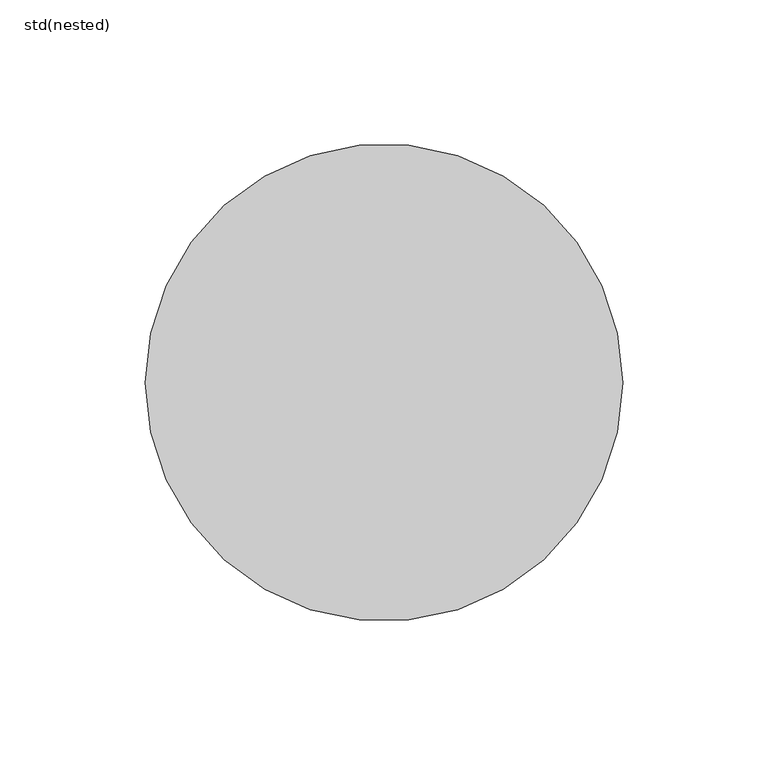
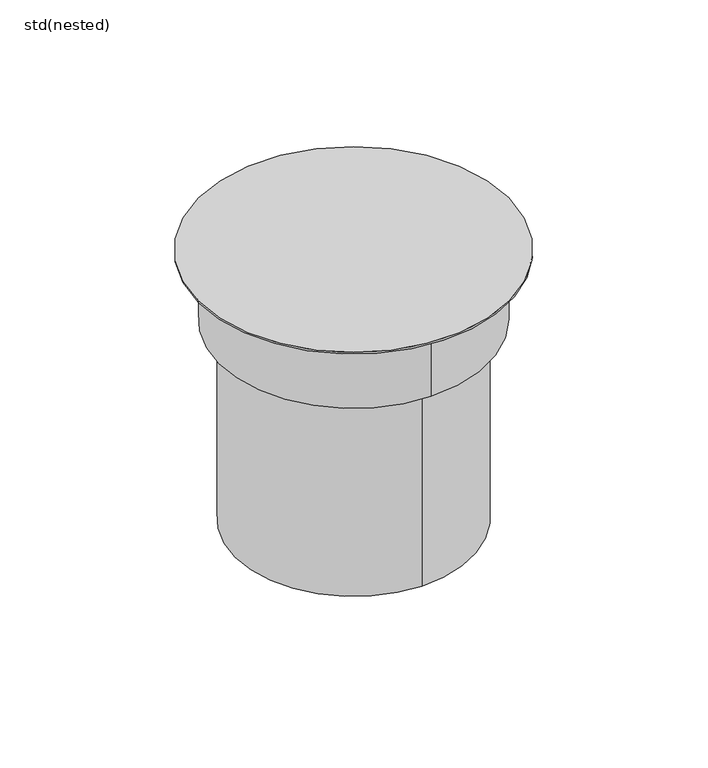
"""IFC4 building model written with IfcOpenShell, lengths in millimetres: sanitary terminal geometry, ZZZ_do not use_PF_ST_WPB upper part_CR 142_ACO : std(nested)."""

from ifc_helpers import new_model, si_unit, point, frame, origin, origin_with_axes, origin_2d, place, context, project, spatial, circle_curve, trimmed, segment, composite_curve, outline, extrude, source, transform, mapped, element, save
from ifc_brep_helpers import plane_surface, cylinder_surface, advanced_brep


def std_nested_f98b17df(model_context):
    return source(origin(), model_context, "Body", "SolidModel", [
        extrude(outline(composite_curve([segment(trimmed(circle_curve(origin_2d(), 62.5), [point((0.0, -62.5))], [point((0.0, 62.5))], False, "CARTESIAN"), True, "CONTINUOUS"), segment(trimmed(circle_curve(origin_2d(), 62.5), [point((0.0, 62.5))], [point((0.0, -62.5))], False, "CARTESIAN"), True, "CONTINUOUS")], self_intersect=False)), frame((0.0, 0.0, -150.0), z_axis=(0.0, 0.0, 1.0), x_axis=(1.0, 0.0, 0.0)), (0.0, 0.0, 1.0), 111.0),
        advanced_brep(
        [(0.0, -71.0, -39.0), (0.0, 71.0, -39.0), (-82.0, 0.0, 0.0), (82.0, 0.0, 0.0), (0.0, -71.0, -1.0), (0.0, 71.0, -1.0), (-82.0, 0.0, -1.0), (82.0, 0.0, -1.0)],
        [
            (0, 1, circle_curve(frame((0.0, 0.0, -39.0), z_axis=(0.0, 0.0, -1.0), x_axis=(0.0, 1.0, 0.0)), 71.0)),
            (1, 0, circle_curve(frame((0.0, 0.0, -39.0), z_axis=(0.0, 0.0, -1.0), x_axis=(0.0, 1.0, 0.0)), 71.0)),
            (2, 3, circle_curve(origin_with_axes(), 82.0)),
            (3, 2, circle_curve(origin_with_axes(), 82.0)),
            (0, 4),
            (4, 5, circle_curve(frame((0.0, 0.0, -1.0), z_axis=(0.0, 0.0, -1.0), x_axis=(0.0, 1.0, 0.0)), 71.0)),
            (5, 1),
            (5, 4, circle_curve(frame((0.0, 0.0, -1.0), z_axis=(0.0, 0.0, -1.0), x_axis=(0.0, 1.0, 0.0)), 71.0)),
            (6, 7, circle_curve(frame((0.0, 0.0, -1.0), z_axis=(0.0, 0.0, -1.0), x_axis=(1.0, 0.0, 0.0)), 82.0)),
            (7, 6, circle_curve(frame((0.0, 0.0, -1.0), z_axis=(0.0, 0.0, -1.0), x_axis=(1.0, 0.0, 0.0)), 82.0)),
            (7, 3),
            (2, 6),
        ],
        [
            plane_surface(frame((0.0, 71.0, -39.0), z_axis=(0.0, 0.0, -1.0), x_axis=(1.0, 0.0, 0.0))),
            plane_surface(frame((0.0, 71.0, 0.0), z_axis=(0.0, 0.0, 1.0), x_axis=(-1.0, 0.0, 0.0))),
            cylinder_surface(frame((0.0, 0.0, 0.0), z_axis=(0.0, 0.0, -1.0), x_axis=(0.0, 1.0, 0.0)), 71.0),
            plane_surface(frame((82.0, 0.0, -1.0), z_axis=(0.0, 0.0, -1.0), x_axis=(0.0, -1.0, 0.0))),
            cylinder_surface(frame((0.0, 0.0, -1.0), z_axis=(0.0, 0.0, 1.0), x_axis=(1.0, 0.0, 0.0)), 82.0),
        ],
        [
            (0, [[1, 2]]),
            (1, [[3, 4]]),
            (2, [[-1, 5, 6, 7]]),
            (2, [[-2, -7, 8, -5]]),
            (3, [[9, 10], [-6, -8]]),
            (4, [[-10, 11, -3, 12]]),
            (4, [[-9, -12, -4, -11]]),
        ],
    ),
    ])


if __name__ == "__main__":
    model = new_model("IFC4")
    model_context = context("Model", 3, world=origin())
    ifc_project = project(units=[si_unit("LENGTHUNIT", "METRE", prefix="MILLI")], contexts=[model_context])
    site = spatial("IfcSite", under=ifc_project)
    building = spatial("IfcBuilding", under=site)
    placement = place(None, origin())
    std_nested_shape = std_nested_f98b17df(model_context)
    element("IfcSanitaryTerminal", 1, ObjectType="ZZZ_do not use_PF_ST_WPB upper part_CR 142_ACO : std(nested)", at=placement, inside=building, context=model_context, shape_type="MappedRepresentation", body=[
        mapped(std_nested_shape, transform((0.0, 0.0, 0.0), x_axis=(1.0, 0.0, 0.0), y_axis=(0.0, 1.0, 0.0), z_axis=(0.0, 0.0, 1.0))),
    ])
    save(model, "model.ifc")
